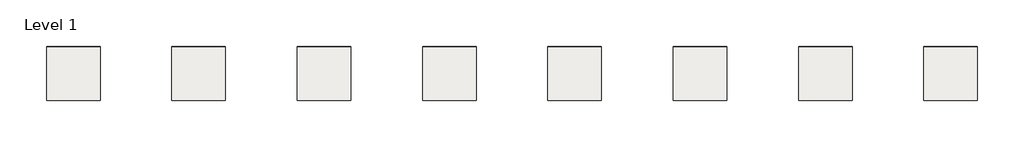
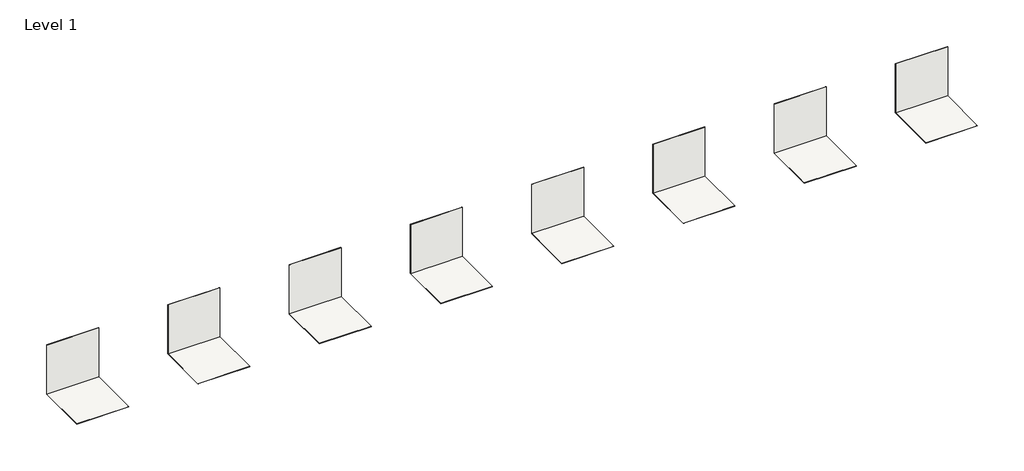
# One storey: 16 coverings.
"""IFC4 building model written with IfcOpenShell, lengths in millimetres."""

from ifc_helpers import new_model, si_unit, frame, origin, origin_with_axes, place, context, project, spatial, polyline, outline, extrude, element, save

model = new_model("IFC4")

# Units and contexts
model_context = context("Model", 3, world=origin())
ifc_project = project(units=[si_unit("LENGTHUNIT", "METRE", prefix="MILLI")], contexts=[model_context])

# Site, building, storey
site = spatial("IfcSite", under=ifc_project)
building = spatial("IfcBuilding", under=site)
storey = spatial("IfcBuildingStorey", under=building, Name="Level 1", Elevation=0.0)

# Coverings
placement = place(None, origin())
element("IfcCovering", 1, ObjectType="REVIGRÉS-PIGMENTO-BASE-30X30-NAT-GRAFITE", at=placement, inside=storey, context=model_context, shape_type="SweptSolid", body=[
    extrude(outline(polyline([(11847.4203852, -671.5112499), (10847.4203852, -671.5112499), (10847.4203852, -664.5112499), (11847.4203852, -664.5112499), (11847.4203852, -671.5112499)])), origin_with_axes(), (0.0, 0.0, 1.0), 1000.0),
])
element("IfcCovering", 2, ObjectType="REVIGRÉS-PIGMENTO-BASE-30X30-NAT-GRAFITE", at=placement, inside=storey, context=model_context, shape_type="SweptSolid", body=[
    extrude(outline(polyline([(11847.4203852, -671.5112499), (11847.4203852, -1672.2612499), (10847.4203852, -1672.2612499), (10847.4203852, -671.5112499), (11847.4203852, -671.5112499)])), frame((0.0, 0.0, -7.0), z_axis=(0.0, 0.0, 1.0), x_axis=(1.0, 0.0, 0.0)), (0.0, 0.0, 1.0), 7.0),
])
element("IfcCovering", 3, ObjectType="REVIGRÉS-PIGMENTO-BASE-30X30-ANTISLIPNAT-CHUMBO", at=placement, inside=storey, context=model_context, shape_type="SweptSolid", body=[
    extrude(outline(polyline([(9507.4203852, -671.5112499), (8507.4203852, -671.5112499), (8507.4203852, -664.5112499), (9507.4203852, -664.5112499), (9507.4203852, -671.5112499)])), origin_with_axes(), (0.0, 0.0, 1.0), 1000.0),
])
element("IfcCovering", 4, ObjectType="REVIGRÉS-PIGMENTO-BASE-30X30-ANTISLIPNAT-CHUMBO", at=placement, inside=storey, context=model_context, shape_type="SweptSolid", body=[
    extrude(outline(polyline([(9507.4203852, -671.5112499), (9507.4203852, -1672.2612499), (8507.4203852, -1672.2612499), (8507.4203852, -671.5112499), (9507.4203852, -671.5112499)])), frame((0.0, 0.0, -7.0), z_axis=(0.0, 0.0, 1.0), x_axis=(1.0, 0.0, 0.0)), (0.0, 0.0, 1.0), 7.0),
])
element("IfcCovering", 5, ObjectType="REVIGRÉS-PIGMENTO-BASE-30X30-NAT-CHUMBO", at=placement, inside=storey, context=model_context, shape_type="SweptSolid", body=[
    extrude(outline(polyline([(7167.4203852, -671.5112499), (6167.4203852, -671.5112499), (6167.4203852, -664.5112499), (7167.4203852, -664.5112499), (7167.4203852, -671.5112499)])), origin_with_axes(), (0.0, 0.0, 1.0), 1000.0),
])
element("IfcCovering", 6, ObjectType="REVIGRÉS-PIGMENTO-BASE-30X30-NAT-CHUMBO", at=placement, inside=storey, context=model_context, shape_type="SweptSolid", body=[
    extrude(outline(polyline([(7167.4203852, -671.5112499), (7167.4203852, -1672.2612499), (6167.4203852, -1672.2612499), (6167.4203852, -671.5112499), (7167.4203852, -671.5112499)])), frame((0.0, 0.0, -7.0), z_axis=(0.0, 0.0, 1.0), x_axis=(1.0, 0.0, 0.0)), (0.0, 0.0, 1.0), 7.0),
])
element("IfcCovering", 7, ObjectType="REVIGRÉS-PIGMENTO-BASE-30X30-ANTISLIPNAT-AREIA", at=placement, inside=storey, context=model_context, shape_type="SweptSolid", body=[
    extrude(outline(polyline([(4827.4203852, -671.5112499), (3827.4203852, -671.5112499), (3827.4203852, -664.5112499), (4827.4203852, -664.5112499), (4827.4203852, -671.5112499)])), origin_with_axes(), (0.0, 0.0, 1.0), 1000.0),
])
element("IfcCovering", 8, ObjectType="REVIGRÉS-PIGMENTO-BASE-30X30-ANTISLIPNAT-AREIA", at=placement, inside=storey, context=model_context, shape_type="SweptSolid", body=[
    extrude(outline(polyline([(4827.4203852, -671.5112499), (4827.4203852, -1672.2612499), (3827.4203852, -1672.2612499), (3827.4203852, -671.5112499), (4827.4203852, -671.5112499)])), frame((0.0, 0.0, -7.0), z_axis=(0.0, 0.0, 1.0), x_axis=(1.0, 0.0, 0.0)), (0.0, 0.0, 1.0), 7.0),
])
element("IfcCovering", 9, ObjectType="REVIGRÉS-PIGMENTO-BASE-30X30-NAT-AREIA 1", at=placement, inside=storey, context=model_context, shape_type="SweptSolid", body=[
    extrude(outline(polyline([(2487.4203852, -671.5112499), (1487.4203852, -671.5112499), (1487.4203852, -664.5112499), (2487.4203852, -664.5112499), (2487.4203852, -671.5112499)])), origin_with_axes(), (0.0, 0.0, 1.0), 1000.0),
])
element("IfcCovering", 10, ObjectType="REVIGRÉS-PIGMENTO-BASE-30X30-NAT-AREIA", at=placement, inside=storey, context=model_context, shape_type="SweptSolid", body=[
    extrude(outline(polyline([(2487.4203852, -671.5112499), (2487.4203852, -1672.2612499), (1487.4203852, -1672.2612499), (1487.4203852, -671.5112499), (2487.4203852, -671.5112499)])), frame((0.0, 0.0, -7.0), z_axis=(0.0, 0.0, 1.0), x_axis=(1.0, 0.0, 0.0)), (0.0, 0.0, 1.0), 7.0),
])
element("IfcCovering", 11, ObjectType="REVIGRÉS-PIGMENTO-BASE-30X30-ANTISLIPNAT-GRAFITE", at=placement, inside=storey, context=model_context, shape_type="SweptSolid", body=[
    extrude(outline(polyline([(14187.4203852, -671.5112499), (13187.4203852, -671.5112499), (13187.4203852, -664.5112499), (14187.4203852, -664.5112499), (14187.4203852, -671.5112499)])), origin_with_axes(), (0.0, 0.0, 1.0), 1000.0),
])
element("IfcCovering", 12, ObjectType="REVIGRÉS-PIGMENTO-BASE-30X30-ANTISLIPNAT-GRAFITE", at=placement, inside=storey, context=model_context, shape_type="SweptSolid", body=[
    extrude(outline(polyline([(14187.4203852, -671.5112499), (14187.4203852, -1672.2612499), (13187.4203852, -1672.2612499), (13187.4203852, -671.5112499), (14187.4203852, -671.5112499)])), frame((0.0, 0.0, -7.0), z_axis=(0.0, 0.0, 1.0), x_axis=(1.0, 0.0, 0.0)), (0.0, 0.0, 1.0), 7.0),
])
element("IfcCovering", 13, ObjectType="REVIGRÉS-PIGMENTO-BASE-30X30-NAT-LUNA", at=placement, inside=storey, context=model_context, shape_type="SweptSolid", body=[
    extrude(outline(polyline([(16527.4203852, -671.5112499), (15527.4203852, -671.5112499), (15527.4203852, -664.5112499), (16527.4203852, -664.5112499), (16527.4203852, -671.5112499)])), origin_with_axes(), (0.0, 0.0, 1.0), 1000.0),
])
element("IfcCovering", 14, ObjectType="REVIGRÉS-PIGMENTO-BASE-30X30-NAT-LUNA", at=placement, inside=storey, context=model_context, shape_type="SweptSolid", body=[
    extrude(outline(polyline([(16527.4203852, -671.5112499), (16527.4203852, -1672.2612499), (15527.4203852, -1672.2612499), (15527.4203852, -671.5112499), (16527.4203852, -671.5112499)])), frame((0.0, 0.0, -7.0), z_axis=(0.0, 0.0, 1.0), x_axis=(1.0, 0.0, 0.0)), (0.0, 0.0, 1.0), 7.0),
])
element("IfcCovering", 15, ObjectType="REVIGRÉS-PIGMENTO-BASE-30X30-ANTISLIPNAT-LUNA", at=placement, inside=storey, context=model_context, shape_type="SweptSolid", body=[
    extrude(outline(polyline([(18867.4203852, -671.5112499), (17867.4203852, -671.5112499), (17867.4203852, -664.5112499), (18867.4203852, -664.5112499), (18867.4203852, -671.5112499)])), origin_with_axes(), (0.0, 0.0, 1.0), 1000.0),
])
element("IfcCovering", 16, ObjectType="REVIGRÉS-PIGMENTO-BASE-30X30-ANTISLIPNAT-LUNA", at=placement, inside=storey, context=model_context, shape_type="SweptSolid", body=[
    extrude(outline(polyline([(18867.4203852, -671.5112499), (18867.4203852, -1672.2612499), (17867.4203852, -1672.2612499), (17867.4203852, -671.5112499), (18867.4203852, -671.5112499)])), frame((0.0, 0.0, -7.0), z_axis=(0.0, 0.0, 1.0), x_axis=(1.0, 0.0, 0.0)), (0.0, 0.0, 1.0), 7.0),
])

save(model, "model.ifc")
